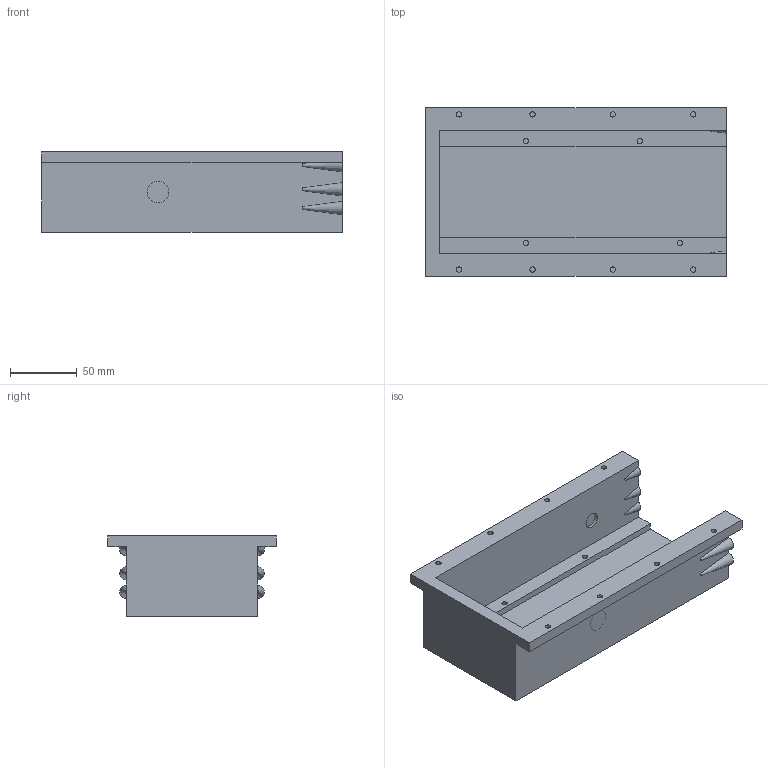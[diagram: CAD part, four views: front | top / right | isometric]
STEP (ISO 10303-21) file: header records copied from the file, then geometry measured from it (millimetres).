
FILE_DESCRIPTION(('FreeCAD Model'),'2;1');
FILE_NAME('Open CASCADE Shape Model','2026-09-11T13:41:26',( '' ),( '' ),'Open CASCADE STEP processor 7.8','FreeCAD','Unknown');
FILE_SCHEMA(('AUTOMOTIVE_DESIGN { 1 0 10303 214 1 1 1 1 }'));
Length unit declared in the file: millimetre
Products named in the file (1): Open CASCADE STEP translator 7.8 1
Bounding box: 224.8 x 126 x 60 mm (x, y, z)
Volume: 244526.8 mm3; surface area: 124719.4 mm2
Topology: 1 solids, 1 shells, 78 faces, 168 edges, 112 vertices
Faces by surface type: plane 46, cylinder 20, cone 12
Full cylindrical faces by diameter (mm): 4 x18, 12.2 x1, 16.2 x1
Entity records: 2148 total; most frequent: DIRECTION 392, CARTESIAN_POINT 359, ORIENTED_EDGE 336, EDGE_CURVE 168, AXIS2_PLACEMENT_3D 145, VERTEX_POINT 112, LINE 102, VECTOR 102
